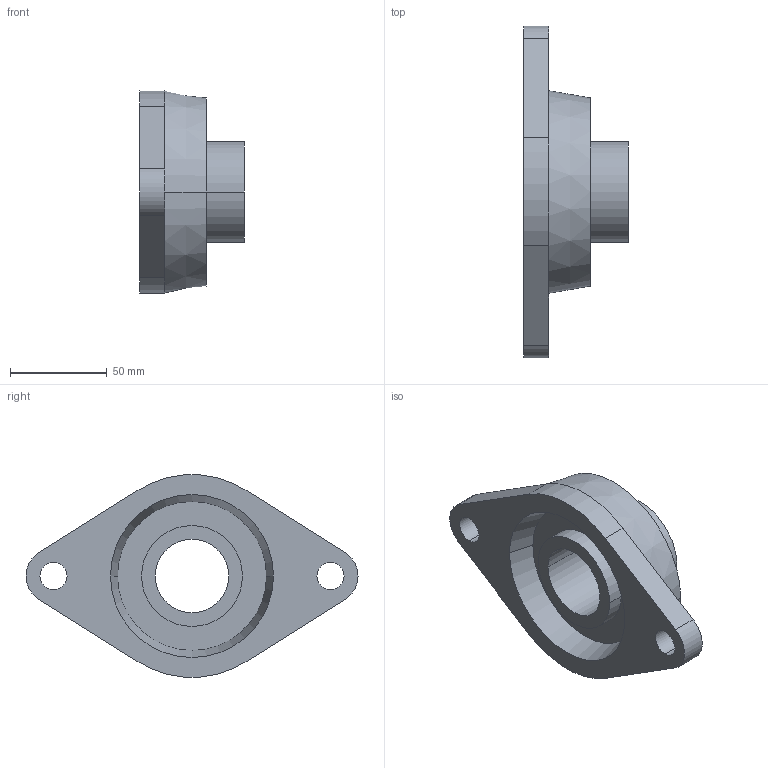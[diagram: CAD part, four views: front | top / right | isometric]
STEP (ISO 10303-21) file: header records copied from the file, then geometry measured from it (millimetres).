
FILE_DESCRIPTION(('SolidDesigner STEP Export'),'2;1');
FILE_NAME('Flanschlager_RCJTY_1_1_2_Zoll.stp','2002-07-16T11:28:28',(''),(''),'SolidDesigner STEP processor Version: 9.0 (March 2001)for AP214(CD)(Solid Model)','CoCreate SolidDesigner: 11.00 12-Dec-2001(C) CoCreate Software GmbH','');
FILE_SCHEMA(('AUTOMOTIVE_DESIGN_CC2 {1 2 10303 214 -1 1 5 1}'));
Length unit declared in the file: millimetre
Products named in the file (1): Flanschlager_RCJTY_1_1_2_Zoll
Bounding box: 54.2 x 172 x 104.66 mm (x, y, z)
Volume: 255217 mm3; surface area: 45801.1 mm2
Topology: 1 solids, 1 shells, 29 faces, 68 edges, 44 vertices
Faces by surface type: cylinder 14, plane 11, cone 4
Entity records: 747 total; most frequent: ORIENTED_EDGE 136, CARTESIAN_POINT 115, DIRECTION 112, EDGE_CURVE 68, VERTEX_POINT 44, AXIS2_PLACEMENT_3D 41, EDGE_LOOP 38, VECTOR 30
